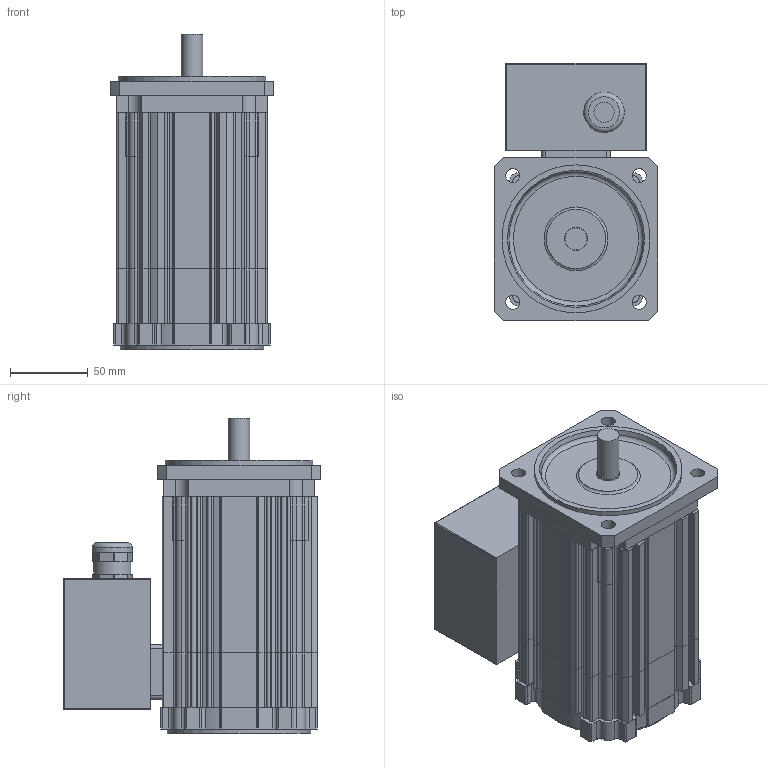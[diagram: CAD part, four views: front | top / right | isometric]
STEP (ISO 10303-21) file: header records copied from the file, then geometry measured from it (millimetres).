
FILE_DESCRIPTION(/* description */ (''),/* implementation_level */ '2;1');
FILE_NAME(/* name */ 'KSA446',/* time_stamp */ '2009-02-26T13:40:21+01:00',/* author */ (''),/* organization */ (''),/* preprocessor_version */ 'ST-DEVELOPER v8',/* originating_system */ 'UNIGRAPHICS SOLUTIONS - UNIGRAPHICS 18.0',/* authorisation */ '');
FILE_SCHEMA (('AUTOMOTIVE_DESIGN { 1 2 10303 214 0 1 1 1 }'));
Length unit declared in the file: millimetre
Products named in the file (6): 0280391350_0; Lagersch4AS_0; Lagersch4BS_0; 089105X_0; Klemmenkasten_0; KSA444_0
Assembly tree (5 placements, depth 3):
  KSA444_0
    089105X_0
    Lagersch4BS_0
    Klemmenkasten_0
      0280391350_0
    Lagersch4AS_0
Bounding box: 105 x 165.35 x 202.5 mm (x, y, z)
Volume: 1235261.1 mm3; surface area: 299952.2 mm2
Topology: 6 solids, 6 shells, 582 faces, 1644 edges, 1085 vertices
Faces by surface type: cylinder 279, plane 269, torus 12, cone 10, bspline 8, sphere 4
Full cylindrical faces by diameter (mm): 9 x4, 13 x1, 14 x1, 15 x1, 18 x1, 20 x1, 24 x1, 26 x1, 89.6 x2, 91 x1, 95 x1
Entity records: 19170 total; most frequent: CARTESIAN_POINT 3612, DIRECTION 3320, ORIENTED_EDGE 3210, EDGE_CURVE 1605, AXIS2_PLACEMENT_3D 1191, VERTEX_POINT 1075, LINE 938, VECTOR 938
